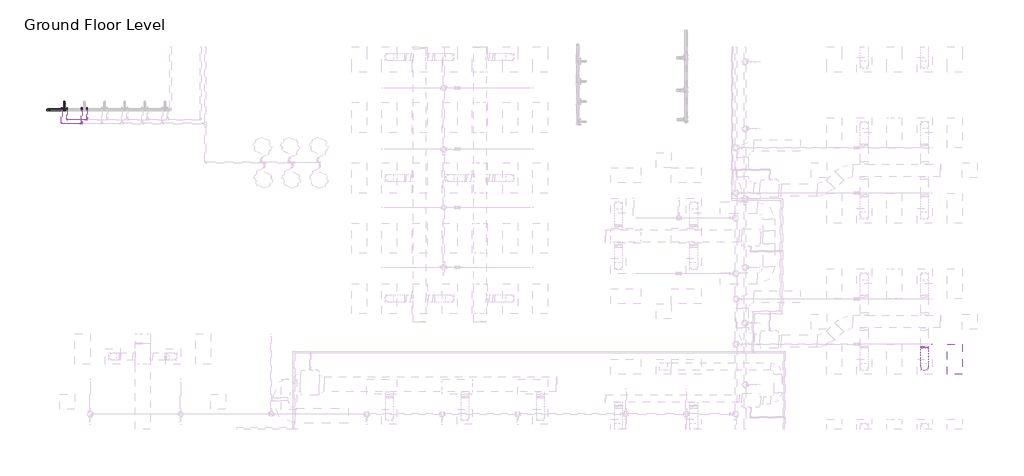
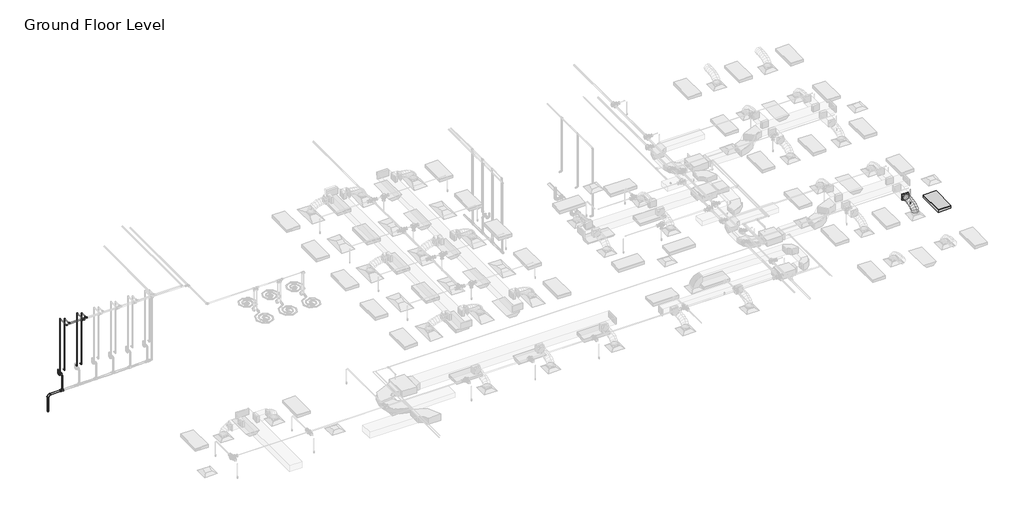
# One storey, part 39 of 74: 22 pipe fittings, 22 pipe segments, 1 duct fitting, 1 duct segment, 1 fire suppression terminal, 1 light fixture.
"""IFC4 building model written with IfcOpenShell, lengths in millimetres."""

from ifc_helpers import new_model, si_unit, point, frame, frame_2d, origin, place, context, project, spatial, circle_curve, ellipse_curve, trimmed, segment, composite_curve, outline, extrude, transform, mapped, element, save
from ifc_brep_helpers import plane_surface, cylinder_surface, advanced_brep
from components import m_rectangular_to_round_transition_angle_45_degree_641efff0, m_sprinkler_dry_pendent_hosted_15_mm_dry_pendent_9bda8e11, m_troffer_light_parabolic_rectangular1_0600x1200mm_4_lamp_86473d4a, m_bend_pvc_sch_40_dwv_standard_0eeb11e1, m_bend_pvc_sch_40_dwv_standard_1e7bdcc1, m_bend_pvc_sch_40_dwv_standard_776e50c4, m_bend_pvc_sch_40_dwv_standard_a69ec96e, m_tee_reducing_sanitary_pvc_sch_40_dwv_standard_21d2848c, standard_b266ab3f, standard_72b35c3b, standard_e954f56a, standard_c7dcb452

model = new_model("IFC4")

# Units and contexts
model_context = context("Model", 3, world=origin())
ifc_project = project(units=[si_unit("LENGTHUNIT", "METRE", prefix="MILLI")], contexts=[model_context])

# Site, building, storey
site = spatial("IfcSite", under=ifc_project)
building = spatial("IfcBuilding", under=site)
storey = spatial("IfcBuildingStorey", under=building, Name="Ground Floor Level", Elevation=900.0)

# Duct fitting
placement = place(None, origin())
m_rectangular_to_round_transition_angle_45_degree_shape = m_rectangular_to_round_transition_angle_45_degree_641efff0(model_context)
element("IfcDuctFitting", 1, ObjectType="M_Rectangular to Round Transition - Angle : 45 Degree", at=placement, inside=storey, context=model_context, shape_type="MappedRepresentation", body=[
    mapped(m_rectangular_to_round_transition_angle_45_degree_shape, transform((13142.7672395, -247.4487153, 4100.0), x_axis=(0.0, -1.0, 0.0), y_axis=(1.0, 0.0, 0.0), z_axis=(0.0, 0.0, 1.0))),
])

# Duct segment
element("IfcDuctSegment", 2, ObjectType="Flex - Round", at=placement, inside=storey, context=model_context, shape_type="AdvancedBrep", body=[
    advanced_brep(
    [(13292.7672395, -1074.7846466, 3826.6), (13142.7672395, -1224.7846466, 3826.6), (12992.7672395, -1074.7846466, 3826.6), (13142.7672395, -924.7846466, 3826.6), (13292.7672395, -1074.7846466, 3857.9377114), (13142.7672395, -1224.7846466, 3883.5809337), (12992.7672395, -1074.7846466, 3857.9377114), (13142.7672395, -924.7846466, 3832.2944892), (13292.7672395, -1057.7687141, 3906.2505728), (13142.7672395, -1191.506693, 3978.0660967), (12992.7672395, -1057.7687141, 3906.2505728), (13142.7672395, -924.0307351, 3834.435049), (13292.7672395, -1010.5848337, 3968.7113131), (13142.7672395, -1114.790733, 4079.6206026), (12992.7672395, -1010.5848337, 3968.7113131), (13142.7672395, -906.3789345, 3857.8020236), (13292.7672395, -939.0288816, 4016.0700639), (13142.7672395, -1007.9629372, 4150.3237489), (12992.7672395, -939.0288816, 4016.0700639), (13142.7672395, -870.0948259, 3881.8163788), (13292.7672395, -848.8967336, 4050.4146682), (13142.7672395, -892.4574967, 4194.3367758), (12992.7672395, -848.8967336, 4050.4146682), (13142.7672395, -805.3359704, 3906.4925606), (13292.7672395, -745.9842657, 4073.8329691), (13142.7672395, -772.5451897, 4221.6234841), (12992.7672395, -745.9842657, 4073.8329691), (13142.7672395, -719.4233417, 3926.0424542), (13292.7672395, -636.087354, 4088.4128097), (13142.7672395, -651.2382563, 4237.7170733), (12992.7672395, -636.087354, 4088.4128097), (13142.7672395, -620.9364516, 3939.1085462), (13292.7672395, -525.0018744, 4096.242033), (13142.7672395, -532.5072025, 4246.085151), (12992.7672395, -525.0018744, 4096.242033), (13142.7672395, -517.4965462, 3946.398915), (13292.7672395, -418.5237028, 4099.4084821), (13142.7672395, -421.2151959, 4249.394754), (12992.7672395, -418.5237028, 4099.4084821), (13142.7672395, -415.8322097, 3949.4222102), (13292.7672395, -322.4487153, 4100.0), (13142.7672395, -321.5252075, 3950.0028429), (12992.7672395, -322.4487153, 4100.0), (13142.7672395, -323.3722232, 4249.9971571)],
    [
        (0, 1, circle_curve(frame((13142.7672395, -1074.7846466, 3826.6), z_axis=(0.0, 0.0, -1.0), x_axis=(1.0, 0.0, 0.0)), 150.0)),
        (1, 2, circle_curve(frame((13142.7672395, -1074.7846466, 3826.6), z_axis=(0.0, 0.0, -1.0), x_axis=(1.0, 0.0, 0.0)), 150.0)),
        (2, 3, circle_curve(frame((13142.7672395, -1074.7846466, 3826.6), z_axis=(0.0, 0.0, -1.0), x_axis=(1.0, 0.0, 0.0)), 150.0)),
        (3, 0, circle_curve(frame((13142.7672395, -1074.7846466, 3826.6), z_axis=(0.0, 0.0, -1.0), x_axis=(1.0, 0.0, 0.0)), 150.0)),
        (0, 4),
        (4, 5, ellipse_curve(frame((13142.7672395, -1074.7846466, 3857.9377114), z_axis=(0.0, -0.16851014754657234, -0.9856999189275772), x_axis=(0.0, 0.9856999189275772, -0.1685101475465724)), 152.176131, 150.0)),
        (5, 1),
        (5, 6, ellipse_curve(frame((13142.7672395, -1074.7846466, 3857.9377114), z_axis=(0.0, -0.16851014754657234, -0.9856999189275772), x_axis=(0.0, 0.9856999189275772, -0.1685101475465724)), 152.176131, 150.0)),
        (6, 2),
        (6, 7, ellipse_curve(frame((13142.7672395, -1074.7846466, 3857.9377114), z_axis=(0.0, -0.16851014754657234, -0.9856999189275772), x_axis=(0.0, 0.9856999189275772, -0.1685101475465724)), 152.176131, 150.0)),
        (7, 3),
        (7, 4, ellipse_curve(frame((13142.7672395, -1074.7846466, 3857.9377114), z_axis=(0.0, -0.16851014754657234, -0.9856999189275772), x_axis=(0.0, 0.9856999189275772, -0.1685101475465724)), 152.176131, 150.0)),
        (4, 8),
        (8, 9, ellipse_curve(frame((13142.7672395, -1057.7687141, 3906.2505728), z_axis=(0.0, -0.4730922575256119, -0.8810128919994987), x_axis=(0.0, 0.8810128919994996, -0.47309225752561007)), 151.8002519, 150.0)),
        (9, 5),
        (9, 10, ellipse_curve(frame((13142.7672395, -1057.7687141, 3906.2505728), z_axis=(0.0, -0.4730922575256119, -0.8810128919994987), x_axis=(0.0, 0.8810128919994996, -0.47309225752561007)), 151.8002519, 150.0)),
        (10, 6),
        (10, 11, ellipse_curve(frame((13142.7672395, -1057.7687141, 3906.2505728), z_axis=(0.0, -0.4730922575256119, -0.8810128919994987), x_axis=(0.0, 0.8810128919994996, -0.47309225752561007)), 151.8002519, 150.0)),
        (11, 7),
        (11, 8, ellipse_curve(frame((13142.7672395, -1057.7687141, 3906.2505728), z_axis=(0.0, -0.4730922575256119, -0.8810128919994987), x_axis=(0.0, 0.8810128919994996, -0.47309225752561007)), 151.8002519, 150.0)),
        (8, 12),
        (12, 13, ellipse_curve(frame((13142.7672395, -1010.5848337, 3968.7113131), z_axis=(0.0, -0.7287877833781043, -0.6847396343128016), x_axis=(0.0, 0.684739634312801, -0.7287877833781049)), 152.1832446, 150.0)),
        (13, 9),
        (13, 14, ellipse_curve(frame((13142.7672395, -1010.5848337, 3968.7113131), z_axis=(0.0, -0.7287877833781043, -0.6847396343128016), x_axis=(0.0, 0.684739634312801, -0.7287877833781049)), 152.1832446, 150.0)),
        (14, 10),
        (14, 15, ellipse_curve(frame((13142.7672395, -1010.5848337, 3968.7113131), z_axis=(0.0, -0.7287877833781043, -0.6847396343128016), x_axis=(0.0, 0.684739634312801, -0.7287877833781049)), 152.1832446, 150.0)),
        (15, 11),
        (15, 12, ellipse_curve(frame((13142.7672395, -1010.5848337, 3968.7113131), z_axis=(0.0, -0.7287877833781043, -0.6847396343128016), x_axis=(0.0, 0.684739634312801, -0.7287877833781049)), 152.1832446, 150.0)),
        (12, 16),
        (16, 17, ellipse_curve(frame((13142.7672395, -939.0288816, 4016.0700639), z_axis=(0.0, -0.8895859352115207, -0.4567678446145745), x_axis=(0.0, 0.45676784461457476, -0.8895859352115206)), 150.91705, 150.0)),
        (17, 13),
        (17, 18, ellipse_curve(frame((13142.7672395, -939.0288816, 4016.0700639), z_axis=(0.0, -0.8895859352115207, -0.4567678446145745), x_axis=(0.0, 0.45676784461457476, -0.8895859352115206)), 150.91705, 150.0)),
        (18, 14),
        (18, 19, ellipse_curve(frame((13142.7672395, -939.0288816, 4016.0700639), z_axis=(0.0, -0.8895859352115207, -0.4567678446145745), x_axis=(0.0, 0.45676784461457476, -0.8895859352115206)), 150.91705, 150.0)),
        (19, 15),
        (19, 16, ellipse_curve(frame((13142.7672395, -939.0288816, 4016.0700639), z_axis=(0.0, -0.8895859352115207, -0.4567678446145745), x_axis=(0.0, 0.45676784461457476, -0.8895859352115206)), 150.91705, 150.0)),
        (16, 20),
        (20, 21, ellipse_curve(frame((13142.7672395, -848.8967336, 4050.4146682), z_axis=(0.0, -0.9571203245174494, -0.2896906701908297), x_axis=(0.0, 0.2896906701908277, -0.9571203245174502)), 150.369921, 150.0)),
        (21, 17),
        (21, 22, ellipse_curve(frame((13142.7672395, -848.8967336, 4050.4146682), z_axis=(0.0, -0.9571203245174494, -0.2896906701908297), x_axis=(0.0, 0.2896906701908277, -0.9571203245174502)), 150.369921, 150.0)),
        (22, 18),
        (22, 23, ellipse_curve(frame((13142.7672395, -848.8967336, 4050.4146682), z_axis=(0.0, -0.9571203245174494, -0.2896906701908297), x_axis=(0.0, 0.2896906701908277, -0.9571203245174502)), 150.369921, 150.0)),
        (23, 19),
        (23, 20, ellipse_curve(frame((13142.7672395, -848.8967336, 4050.4146682), z_axis=(0.0, -0.9571203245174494, -0.2896906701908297), x_axis=(0.0, 0.2896906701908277, -0.9571203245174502)), 150.369921, 150.0)),
        (20, 24),
        (24, 25, ellipse_curve(frame((13142.7672395, -745.9842657, 4073.8329691), z_axis=(0.0, -0.9842313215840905, -0.1768861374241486), x_axis=(0.0, 0.17688613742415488, -0.9842313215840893)), 150.1583131, 150.0)),
        (25, 21),
        (25, 26, ellipse_curve(frame((13142.7672395, -745.9842657, 4073.8329691), z_axis=(0.0, -0.9842313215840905, -0.1768861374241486), x_axis=(0.0, 0.17688613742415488, -0.9842313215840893)), 150.1583131, 150.0)),
        (26, 22),
        (26, 27, ellipse_curve(frame((13142.7672395, -745.9842657, 4073.8329691), z_axis=(0.0, -0.9842313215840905, -0.1768861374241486), x_axis=(0.0, 0.17688613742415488, -0.9842313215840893)), 150.1583131, 150.0)),
        (27, 23),
        (27, 24, ellipse_curve(frame((13142.7672395, -745.9842657, 4073.8329691), z_axis=(0.0, -0.9842313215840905, -0.1768861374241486), x_axis=(0.0, 0.17688613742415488, -0.9842313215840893)), 150.1583131, 150.0)),
        (24, 28),
        (28, 29, ellipse_curve(frame((13142.7672395, -636.087354, 4088.4128097), z_axis=(0.0, -0.9948906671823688, -0.1009582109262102), x_axis=(0.0, 0.10095821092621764, -0.994890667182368)), 150.0710264, 150.0)),
        (29, 25),
        (29, 30, ellipse_curve(frame((13142.7672395, -636.087354, 4088.4128097), z_axis=(0.0, -0.9948906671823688, -0.1009582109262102), x_axis=(0.0, 0.10095821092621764, -0.994890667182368)), 150.0710264, 150.0)),
        (30, 26),
        (30, 31, ellipse_curve(frame((13142.7672395, -636.087354, 4088.4128097), z_axis=(0.0, -0.9948906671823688, -0.1009582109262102), x_axis=(0.0, 0.10095821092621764, -0.994890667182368)), 150.0710264, 150.0)),
        (31, 27),
        (31, 28, ellipse_curve(frame((13142.7672395, -636.087354, 4088.4128097), z_axis=(0.0, -0.9948906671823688, -0.1009582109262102), x_axis=(0.0, 0.10095821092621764, -0.994890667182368)), 150.0710264, 150.0)),
        (28, 32),
        (32, 33, ellipse_curve(frame((13142.7672395, -525.0018744, 4096.242033), z_axis=(0.0, -0.9987479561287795, -0.05002519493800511), x_axis=(0.0, 0.050025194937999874, -0.9987479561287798)), 150.0309634, 150.0)),
        (33, 29),
        (33, 34, ellipse_curve(frame((13142.7672395, -525.0018744, 4096.242033), z_axis=(0.0, -0.9987479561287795, -0.05002519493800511), x_axis=(0.0, 0.050025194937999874, -0.9987479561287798)), 150.0309634, 150.0)),
        (34, 30),
        (34, 35, ellipse_curve(frame((13142.7672395, -525.0018744, 4096.242033), z_axis=(0.0, -0.9987479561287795, -0.05002519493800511), x_axis=(0.0, 0.050025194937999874, -0.9987479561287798)), 150.0309634, 150.0)),
        (35, 31),
        (35, 32, ellipse_curve(frame((13142.7672395, -525.0018744, 4096.242033), z_axis=(0.0, -0.9987479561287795, -0.05002519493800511), x_axis=(0.0, 0.050025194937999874, -0.9987479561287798)), 150.0309634, 150.0)),
        (32, 36),
        (36, 37, ellipse_curve(frame((13142.7672395, -418.5237028, 4099.4084821), z_axis=(0.0, -0.9998390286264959, -0.017942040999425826), x_axis=(0.0, 0.017942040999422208, -0.999839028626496)), 150.0104193, 150.0)),
        (37, 33),
        (37, 38, ellipse_curve(frame((13142.7672395, -418.5237028, 4099.4084821), z_axis=(0.0, -0.9998390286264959, -0.017942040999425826), x_axis=(0.0, 0.017942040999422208, -0.999839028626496)), 150.0104193, 150.0)),
        (38, 34),
        (38, 39, ellipse_curve(frame((13142.7672395, -418.5237028, 4099.4084821), z_axis=(0.0, -0.9998390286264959, -0.017942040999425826), x_axis=(0.0, 0.017942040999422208, -0.999839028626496)), 150.0104193, 150.0)),
        (39, 35),
        (39, 36, ellipse_curve(frame((13142.7672395, -418.5237028, 4099.4084821), z_axis=(0.0, -0.9998390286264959, -0.017942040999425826), x_axis=(0.0, 0.017942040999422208, -0.999839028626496)), 150.0104193, 150.0)),
        (40, 41, circle_curve(frame((13142.7672395, -322.4487153, 4100.0), z_axis=(0.0, 0.9999810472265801, 0.006156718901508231), x_axis=(1.0, 0.0, 0.0)), 150.0)),
        (41, 42, circle_curve(frame((13142.7672395, -322.4487153, 4100.0), z_axis=(0.0, 0.9999810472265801, 0.006156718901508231), x_axis=(1.0, 0.0, 0.0)), 150.0)),
        (42, 43, circle_curve(frame((13142.7672395, -322.4487153, 4100.0), z_axis=(0.0, 0.9999810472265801, 0.006156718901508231), x_axis=(1.0, 0.0, 0.0)), 150.0)),
        (43, 40, circle_curve(frame((13142.7672395, -322.4487153, 4100.0), z_axis=(0.0, 0.9999810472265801, 0.006156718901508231), x_axis=(1.0, 0.0, 0.0)), 150.0)),
        (36, 40),
        (43, 37),
        (42, 38),
        (41, 39),
    ],
    [
        plane_surface(frame((13142.7672395, -1224.7846466, 3826.6), z_axis=(0.0, 0.0, -1.0), x_axis=(1.0, 0.0, 0.0))),
        cylinder_surface(frame((13142.7672395, -1074.7846466, 3826.6), z_axis=(0.0, 0.0, -1.0), x_axis=(1.0, 0.0, 0.0)), 150.0),
        cylinder_surface(frame((13142.7672395, -1074.7846466, 3857.9377114), z_axis=(0.0, -0.3322008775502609, -0.9432086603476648), x_axis=(1.0, 0.0, 0.0)), 150.0),
        cylinder_surface(frame((13142.7672395, -1057.7687141, 3906.2505728), z_axis=(0.0, -0.6027625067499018, -0.7979206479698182), x_axis=(1.0, 0.0, 0.0)), 150.0),
        cylinder_surface(frame((13142.7672395, -1010.5848337, 3968.7113131), z_axis=(0.0, -0.8339024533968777, -0.5519118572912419), x_axis=(1.0, 0.0, 0.0)), 150.0),
        cylinder_surface(frame((13142.7672395, -939.0288816, 4016.0700639), z_axis=(0.0, -0.9344582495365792, -0.3560727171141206), x_axis=(1.0, 0.0, 0.0)), 150.0),
        cylinder_surface(frame((13142.7672395, -848.8967336, 4050.4146682), z_axis=(0.0, -0.9750732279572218, -0.22188330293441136), x_axis=(1.0, 0.0, 0.0)), 150.0),
        cylinder_surface(frame((13142.7672395, -745.9842657, 4073.8329691), z_axis=(0.0, -0.9913140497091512, -0.1315159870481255), x_axis=(1.0, 0.0, 0.0)), 150.0),
        cylinder_surface(frame((13142.7672395, -636.087354, 4088.4128097), z_axis=(0.0, -0.9975255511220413, -0.07030487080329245), x_axis=(1.0, 0.0, 0.0)), 150.0),
        cylinder_surface(frame((13142.7672395, -525.0018744, 4096.242033), z_axis=(0.0, -0.9995581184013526, -0.029724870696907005), x_axis=(1.0, 0.0, 0.0)), 150.0),
        plane_surface(frame((13142.7672395, -323.3722232, 4249.9971571), z_axis=(0.0, 0.9999810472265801, 0.006156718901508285), x_axis=(1.0, 0.0, 0.0))),
        cylinder_surface(frame((13142.7672395, -418.5237028, 4099.4084821), z_axis=(0.0, -0.9999810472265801, -0.006156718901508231), x_axis=(1.0, 0.0, 0.0)), 150.0),
    ],
    [
        (0, [[1, 2, 3, 4]]),
        (1, [[-1, 5, 6, 7]]),
        (1, [[-2, -7, 8, 9]]),
        (1, [[-3, -9, 10, 11]]),
        (1, [[-4, -11, 12, -5]]),
        (2, [[-6, 13, 14, 15]]),
        (2, [[-8, -15, 16, 17]]),
        (2, [[-10, -17, 18, 19]]),
        (2, [[-12, -19, 20, -13]]),
        (3, [[-14, 21, 22, 23]]),
        (3, [[-16, -23, 24, 25]]),
        (3, [[-18, -25, 26, 27]]),
        (3, [[-20, -27, 28, -21]]),
        (4, [[-22, 29, 30, 31]]),
        (4, [[-24, -31, 32, 33]]),
        (4, [[-26, -33, 34, 35]]),
        (4, [[-28, -35, 36, -29]]),
        (5, [[-30, 37, 38, 39]]),
        (5, [[-32, -39, 40, 41]]),
        (5, [[-34, -41, 42, 43]]),
        (5, [[-36, -43, 44, -37]]),
        (6, [[-38, 45, 46, 47]]),
        (6, [[-40, -47, 48, 49]]),
        (6, [[-42, -49, 50, 51]]),
        (6, [[-44, -51, 52, -45]]),
        (7, [[-46, 53, 54, 55]]),
        (7, [[-48, -55, 56, 57]]),
        (7, [[-50, -57, 58, 59]]),
        (7, [[-52, -59, 60, -53]]),
        (8, [[-54, 61, 62, 63]]),
        (8, [[-56, -63, 64, 65]]),
        (8, [[-58, -65, 66, 67]]),
        (8, [[-60, -67, 68, -61]]),
        (9, [[-62, 69, 70, 71]]),
        (9, [[-64, -71, 72, 73]]),
        (9, [[-66, -73, 74, 75]]),
        (9, [[-68, -75, 76, -69]]),
        (10, [[77, 78, 79, 80]]),
        (11, [[-70, 81, -80, 82]]),
        (11, [[-72, -82, -79, 83]]),
        (11, [[-74, -83, -78, 84]]),
        (11, [[-76, -84, -77, -81]]),
    ],
),
])

# Fire suppression terminal
m_sprinkler_dry_pendent_hosted_15_mm_dry_pendent_shape = m_sprinkler_dry_pendent_hosted_15_mm_dry_pendent_9bda8e11(model_context)
element("IfcFireSuppressionTerminal", 3, ObjectType="M_Sprinkler - Dry - Pendent - Hosted : 15 mm Dry Pendent", at=placement, inside=storey, context=model_context, shape_type="MappedRepresentation", body=[
    mapped(m_sprinkler_dry_pendent_hosted_15_mm_dry_pendent_shape, transform((13442.7672395, -174.7846466, 3650.0), x_axis=(1.0, 0.0, 0.0), y_axis=(0.0, -1.0, 0.0), z_axis=(0.0, 0.0, -1.0))),
])

# Light fixture
m_troffer_light_parabolic_rectangular1_0600x1200mm_4_lamp_shape = m_troffer_light_parabolic_rectangular1_0600x1200mm_4_lamp_86473d4a(model_context)
element("IfcLightFixture", 4, ObjectType="M_Troffer Light - Parabolic Rectangular1 : 0600x1200mm(4 Lamp) - 277V 2", at=placement, inside=storey, context=model_context, shape_type="MappedRepresentation", body=[
    mapped(m_troffer_light_parabolic_rectangular1_0600x1200mm_4_lamp_shape, transform((14283.3013074, -756.081145, 3650.0), x_axis=(0.0, 1.0, 0.0), y_axis=(-1.0, 0.0, 0.0), z_axis=(0.0, 0.0, 1.0))),
])

# Pipe fittings
m_bend_pvc_sch_40_dwv_standard_shape = m_bend_pvc_sch_40_dwv_standard_0eeb11e1(model_context)
element("IfcPipeFitting", 5, ObjectType="M_Bend - PVC - Sch 40 - DWV : Standard", at=placement, inside=storey, context=model_context, shape_type="MappedRepresentation", body=[
    mapped(m_bend_pvc_sch_40_dwv_standard_shape, transform((-21725.2711391, 9143.7835646, 712.5143809), x_axis=(-0.9999500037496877, 0.0, -0.009999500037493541), y_axis=(0.009999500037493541, 0.0, -0.9999500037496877), z_axis=(0.0, -1.0, 0.0))),
])
m_bend_pvc_sch_40_dwv_standard_2_shape = m_bend_pvc_sch_40_dwv_standard_1e7bdcc1(model_context)
element("IfcPipeFitting", 6, ObjectType="M_Bend - PVC - Sch 40 - DWV : Standard", at=placement, inside=storey, context=model_context, shape_type="MappedRepresentation", body=[
    mapped(m_bend_pvc_sch_40_dwv_standard_2_shape, transform((-21061.7062458, 9143.7835645, 1498.2000033), x_axis=(0.0, -0.9999500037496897, -0.00999950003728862), y_axis=(0.0, 0.00999950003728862, -0.9999500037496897), z_axis=(1.0, 0.0, 0.0))),
])
m_bend_pvc_sch_40_dwv_standard_3_shape = m_bend_pvc_sch_40_dwv_standard_776e50c4(model_context)
element("IfcPipeFitting", 7, ObjectType="M_Bend - PVC - Sch 40 - DWV : Standard", at=placement, inside=storey, context=model_context, shape_type="MappedRepresentation", body=[
    mapped(m_bend_pvc_sch_40_dwv_standard_3_shape, transform((-21061.7062458, 9323.7832388, 1358.6825726), x_axis=(0.0, -0.9999500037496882, -0.009999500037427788), y_axis=(0.0, -0.009999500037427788, 0.9999500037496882), z_axis=(-1.0, 0.0, 0.0))),
])
element("IfcPipeFitting", 8, ObjectType="M_Bend - PVC - Sch 40 - DWV : Standard", at=placement, inside=storey, context=model_context, shape_type="MappedRepresentation", body=[
    mapped(m_bend_pvc_sch_40_dwv_standard_3_shape, transform((-21061.7062458, 9323.7832388, 1500.0), x_axis=(0.0, 0.0, 1.0), y_axis=(0.0, -1.0, 0.0), z_axis=(1.0, 0.0, 0.0))),
])
m_bend_pvc_sch_40_dwv_standard_4_shape = m_bend_pvc_sch_40_dwv_standard_a69ec96e(model_context)
element("IfcPipeFitting", 9, ObjectType="M_Bend - PVC - Sch 40 - DWV : Standard", at=placement, inside=storey, context=model_context, shape_type="MappedRepresentation", body=[
    mapped(m_bend_pvc_sch_40_dwv_standard_4_shape, transform((-21061.7062458, 9458.7835646, 1360.0325758), x_axis=(0.0, 0.999950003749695, 0.009999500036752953), y_axis=(0.007367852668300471, -0.009999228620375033, 0.999922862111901), z_axis=(0.999972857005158, 7.36748430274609e-05, -0.007367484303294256))),
])
m_tee_reducing_sanitary_pvc_sch_40_dwv_standard_shape = m_tee_reducing_sanitary_pvc_sch_40_dwv_standard_21d2848c(model_context)
element("IfcPipeFitting", 10, ObjectType="M_Tee Reducing Sanitary - PVC - Sch 40 - DWV : Standard", at=placement, inside=storey, context=model_context, shape_type="MappedRepresentation", body=[
    mapped(m_tee_reducing_sanitary_pvc_sch_40_dwv_standard_shape, transform((-21061.7062458, 9143.7835645, 719.2500298), x_axis=(0.9999500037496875, 0.0, 0.009999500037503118), y_axis=(0.009999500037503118, 0.0, -0.9999500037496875), z_axis=(0.0, 1.0, 0.0))),
])
standard_shape = standard_b266ab3f(model_context)
element("IfcPipeFitting", 11, ObjectType="M_Elbow - CPVC - Sch 40 : Standard", at=placement, inside=storey, context=model_context, shape_type="MappedRepresentation", body=[
    mapped(standard_shape, transform((-21165.5651206, 9135.2153534, 1690.0), x_axis=(0.0, -1.0, 0.0), y_axis=(0.0, 0.0, 1.0), z_axis=(-1.0, 0.0, 0.0))),
])
element("IfcPipeFitting", 12, ObjectType="M_Elbow - CPVC - Sch 40 : Standard", at=placement, inside=storey, context=model_context, shape_type="MappedRepresentation", body=[
    mapped(standard_shape, transform((-21165.5651206, 9135.2153534, 4315.0), x_axis=(0.0, 0.0, 1.0), y_axis=(0.0, -1.0, 0.0), z_axis=(1.0, 0.0, 0.0))),
])
element("IfcPipeFitting", 13, ObjectType="M_Elbow - CPVC - Sch 40 : Standard", at=placement, inside=storey, context=model_context, shape_type="MappedRepresentation", body=[
    mapped(standard_shape, transform((-20956.9352794, 9135.2153534, 1690.0), x_axis=(0.0, -1.0, 0.0), y_axis=(0.0, 0.0, 1.0), z_axis=(-1.0, 0.0, 0.0))),
])
element("IfcPipeFitting", 14, ObjectType="M_Elbow - CPVC - Sch 40 : Standard", at=placement, inside=storey, context=model_context, shape_type="MappedRepresentation", body=[
    mapped(standard_shape, transform((-20956.9352794, 9135.2153534, 4250.0), x_axis=(0.0, 0.0, 1.0), y_axis=(0.0, -1.0, 0.0), z_axis=(1.0, 0.0, 0.0))),
])
element("IfcPipeFitting", 15, ObjectType="M_Elbow - CPVC - Sch 40 : Standard", at=placement, inside=storey, context=model_context, shape_type="MappedRepresentation", body=[
    mapped(standard_shape, transform((-20156.9352794, 9135.2153534, 4250.0), x_axis=(0.0, 0.0, 1.0), y_axis=(0.0, -1.0, 0.0), z_axis=(1.0, 0.0, 0.0))),
])
element("IfcPipeFitting", 16, ObjectType="M_Elbow - CPVC - Sch 40 : Standard", at=placement, inside=storey, context=model_context, shape_type="MappedRepresentation", body=[
    mapped(standard_shape, transform((-20365.5651206, 9135.2153534, 1690.0), x_axis=(0.0, 0.0, -1.0), y_axis=(0.0, 1.0, 0.0), z_axis=(1.0, 0.0, 0.0))),
])
element("IfcPipeFitting", 17, ObjectType="M_Elbow - CPVC - Sch 40 : Standard", at=placement, inside=storey, context=model_context, shape_type="MappedRepresentation", body=[
    mapped(standard_shape, transform((-20156.9352794, 9135.2153534, 1690.0), x_axis=(0.0, 0.0, -1.0), y_axis=(0.0, 1.0, 0.0), z_axis=(1.0, 0.0, 0.0))),
])
element("IfcPipeFitting", 18, ObjectType="M_Elbow - CPVC - Sch 40 : Standard", at=placement, inside=storey, context=model_context, shape_type="MappedRepresentation", body=[
    mapped(standard_shape, transform((-20365.5651206, 9135.2153534, 4315.0), x_axis=(0.0, 0.0, 1.0), y_axis=(0.0, -1.0, 0.0), z_axis=(1.0, 0.0, 0.0))),
])
element("IfcPipeFitting", 19, ObjectType="M_Elbow - CPVC - Sch 40 : Standard", at=placement, inside=storey, context=model_context, shape_type="MappedRepresentation", body=[
    mapped(standard_shape, transform((-21165.5651206, 8599.9071734, 4315.0), x_axis=(0.0, -1.0, 0.0), y_axis=(1.0, 0.0, 0.0), z_axis=(0.0, 0.0, 1.0))),
])
element("IfcPipeFitting", 20, ObjectType="M_Elbow - CPVC - Sch 40 : Standard", at=placement, inside=storey, context=model_context, shape_type="MappedRepresentation", body=[
    mapped(standard_shape, transform((-20956.9352794, 8755.2153534, 4250.0), x_axis=(0.0, -1.0, 0.0), y_axis=(1.0, 0.0, 0.0), z_axis=(0.0, 0.0, 1.0))),
])
standard_2_shape = standard_72b35c3b(model_context)
element("IfcPipeFitting", 21, ObjectType="M_Tee - CPVC - Sch 40 : Standard", at=placement, inside=storey, context=model_context, shape_type="MappedRepresentation", body=[
    mapped(standard_2_shape, transform((-20365.5651206, 8599.9071734, 4315.0), x_axis=(1.0, 0.0, 0.0), y_axis=(0.0, -1.0, 0.0), z_axis=(0.0, 0.0, -1.0))),
])
element("IfcPipeFitting", 22, ObjectType="M_Tee - CPVC - Sch 40 : Standard", at=placement, inside=storey, context=model_context, shape_type="MappedRepresentation", body=[
    mapped(standard_2_shape, transform((-20156.9352794, 8755.2153534, 4250.0), x_axis=(-1.0, 0.0, 0.0), y_axis=(0.0, -1.0, 0.0), z_axis=(0.0, 0.0, 1.0))),
])
standard_3_shape = standard_e954f56a(model_context)
element("IfcPipeFitting", 23, ObjectType="M_Coupling Reducing - CPVC - Sch 40 : Standard", at=placement, inside=storey, context=model_context, shape_type="MappedRepresentation", body=[
    mapped(standard_3_shape, transform((-20365.5651206, 8639.6073734, 4315.0), x_axis=(0.0, 1.0, 0.0), y_axis=(-1.0, 0.0, 0.0), z_axis=(0.0, 0.0, 1.0))),
])
element("IfcPipeFitting", 24, ObjectType="M_Coupling Reducing - CPVC - Sch 40 : Standard", at=placement, inside=storey, context=model_context, shape_type="MappedRepresentation", body=[
    mapped(standard_3_shape, transform((-20196.6354794, 8755.2153534, 4250.0), x_axis=(-1.0, 0.0, 0.0), y_axis=(0.0, -1.0, 0.0), z_axis=(0.0, 0.0, 1.0))),
])
element("IfcPipeFitting", 25, ObjectType="M_Coupling Reducing - CPVC - Sch 40 : Standard", at=placement, inside=storey, context=model_context, shape_type="MappedRepresentation", body=[
    mapped(standard_3_shape, transform((-20156.9352794, 8794.9155534, 4250.0), x_axis=(0.0, 1.0, 0.0), y_axis=(-1.0, 0.0, 0.0), z_axis=(0.0, 0.0, 1.0))),
])
standard_4_shape = standard_c7dcb452(model_context)
element("IfcPipeFitting", 26, ObjectType="M_Coupling Reducing - CPVC - Sch 40 : Standard", at=placement, inside=storey, context=model_context, shape_type="MappedRepresentation", body=[
    mapped(standard_4_shape, transform((-20462.4153206, 8599.9071734, 4315.0), x_axis=(1.0, 0.0, 0.0), y_axis=(0.0, 1.0, 0.0), z_axis=(0.0, 0.0, 1.0))),
])

# Pipe segments
element("IfcPipeSegment", 27, ObjectType="CPVC", at=placement, inside=storey, context=model_context, shape_type="SweptSolid", body=[
    extrude(outline(composite_curve([segment(trimmed(circle_curve(frame_2d((1690.0, -21165.5651206)), 13.335), [point((1690.0, -21178.9001206))], [point((1676.665, -21165.5651206))], False, "CARTESIAN"), True, "CONTINUOUS"), segment(trimmed(circle_curve(frame_2d((1690.0, -21165.5651206)), 13.335), [point((1676.665, -21165.5651206))], [point((1690.0, -21152.2301206))], False, "CARTESIAN"), True, "CONTINUOUS"), segment(trimmed(circle_curve(frame_2d((1690.0, -21165.5651206)), 13.335), [point((1690.0, -21152.2301206))], [point((1703.335, -21165.5651206))], False, "CARTESIAN"), True, "CONTINUOUS"), segment(trimmed(circle_curve(frame_2d((1690.0, -21165.5651206)), 13.335), [point((1703.335, -21165.5651206))], [point((1690.0, -21178.9001206))], False, "CARTESIAN"), True, "CONTINUOUS")], self_intersect=False)), frame((0.0, 9170.5404034, 0.0), z_axis=(0.0, 1.0, 0.0), x_axis=(0.0, 0.0, 1.0)), (0.0, 0.0, 1.0), 64.67495),
])
element("IfcPipeSegment", 28, ObjectType="CPVC", at=placement, inside=storey, context=model_context, shape_type="SweptSolid", body=[
    extrude(outline(composite_curve([segment(trimmed(circle_curve(frame_2d((4315.0, -21165.5651206)), 13.335), [point((4315.0, -21178.9001206))], [point((4301.665, -21165.5651206))], False, "CARTESIAN"), True, "CONTINUOUS"), segment(trimmed(circle_curve(frame_2d((4315.0, -21165.5651206)), 13.335), [point((4301.665, -21165.5651206))], [point((4315.0, -21152.2301206))], False, "CARTESIAN"), True, "CONTINUOUS"), segment(trimmed(circle_curve(frame_2d((4315.0, -21165.5651206)), 13.335), [point((4315.0, -21152.2301206))], [point((4328.335, -21165.5651206))], False, "CARTESIAN"), True, "CONTINUOUS"), segment(trimmed(circle_curve(frame_2d((4315.0, -21165.5651206)), 13.335), [point((4328.335, -21165.5651206))], [point((4315.0, -21178.9001206))], False, "CARTESIAN"), True, "CONTINUOUS")], self_intersect=False)), frame((0.0, 8635.2322234, 0.0), z_axis=(0.0, 1.0, 0.0), x_axis=(0.0, 0.0, 1.0)), (0.0, 0.0, 1.0), 464.65808),
])
element("IfcPipeSegment", 29, ObjectType="CPVC", at=placement, inside=storey, context=model_context, shape_type="SweptSolid", body=[
    extrude(outline(composite_curve([segment(trimmed(circle_curve(frame_2d((-21165.5651206, 9135.2153534)), 13.335), [point((-21178.9001206, 9135.2153534))], [point((-21165.5651206, 9148.5503534))], False, "CARTESIAN"), True, "CONTINUOUS"), segment(trimmed(circle_curve(frame_2d((-21165.5651206, 9135.2153534)), 13.335), [point((-21165.5651206, 9148.5503534))], [point((-21152.2301206, 9135.2153534))], False, "CARTESIAN"), True, "CONTINUOUS"), segment(trimmed(circle_curve(frame_2d((-21165.5651206, 9135.2153534)), 13.335), [point((-21152.2301206, 9135.2153534))], [point((-21165.5651206, 9121.8803534))], False, "CARTESIAN"), True, "CONTINUOUS"), segment(trimmed(circle_curve(frame_2d((-21165.5651206, 9135.2153534)), 13.335), [point((-21165.5651206, 9121.8803534))], [point((-21178.9001206, 9135.2153534))], False, "CARTESIAN"), True, "CONTINUOUS")], self_intersect=False)), frame((0.0, 0.0, 1725.32505), z_axis=(0.0, 0.0, 1.0), x_axis=(1.0, 0.0, 0.0)), (0.0, 0.0, 1.0), 2554.3499),
])
element("IfcPipeSegment", 30, ObjectType="CPVC", at=placement, inside=storey, context=model_context, shape_type="SweptSolid", body=[
    extrude(outline(composite_curve([segment(trimmed(circle_curve(frame_2d((1690.0, -20956.9352794)), 13.335), [point((1690.0, -20970.2702794))], [point((1676.665, -20956.9352794))], False, "CARTESIAN"), True, "CONTINUOUS"), segment(trimmed(circle_curve(frame_2d((1690.0, -20956.9352794)), 13.335), [point((1676.665, -20956.9352794))], [point((1690.0, -20943.6002794))], False, "CARTESIAN"), True, "CONTINUOUS"), segment(trimmed(circle_curve(frame_2d((1690.0, -20956.9352794)), 13.335), [point((1690.0, -20943.6002794))], [point((1703.335, -20956.9352794))], False, "CARTESIAN"), True, "CONTINUOUS"), segment(trimmed(circle_curve(frame_2d((1690.0, -20956.9352794)), 13.335), [point((1703.335, -20956.9352794))], [point((1690.0, -20970.2702794))], False, "CARTESIAN"), True, "CONTINUOUS")], self_intersect=False)), frame((0.0, 9170.5404034, 0.0), z_axis=(0.0, 1.0, 0.0), x_axis=(0.0, 0.0, 1.0)), (0.0, 0.0, 1.0), 64.67495),
])
element("IfcPipeSegment", 31, ObjectType="CPVC", at=placement, inside=storey, context=model_context, shape_type="SweptSolid", body=[
    extrude(outline(composite_curve([segment(trimmed(circle_curve(frame_2d((4250.0, -20956.9352794)), 13.335), [point((4250.0, -20970.2702794))], [point((4236.665, -20956.9352794))], False, "CARTESIAN"), True, "CONTINUOUS"), segment(trimmed(circle_curve(frame_2d((4250.0, -20956.9352794)), 13.335), [point((4236.665, -20956.9352794))], [point((4250.0, -20943.6002794))], False, "CARTESIAN"), True, "CONTINUOUS"), segment(trimmed(circle_curve(frame_2d((4250.0, -20956.9352794)), 13.335), [point((4250.0, -20943.6002794))], [point((4263.335, -20956.9352794))], False, "CARTESIAN"), True, "CONTINUOUS"), segment(trimmed(circle_curve(frame_2d((4250.0, -20956.9352794)), 13.335), [point((4263.335, -20956.9352794))], [point((4250.0, -20970.2702794))], False, "CARTESIAN"), True, "CONTINUOUS")], self_intersect=False)), frame((0.0, 8790.5404034, 0.0), z_axis=(0.0, 1.0, 0.0), x_axis=(0.0, 0.0, 1.0)), (0.0, 0.0, 1.0), 309.3499),
])
element("IfcPipeSegment", 32, ObjectType="CPVC", at=placement, inside=storey, context=model_context, shape_type="SweptSolid", body=[
    extrude(outline(composite_curve([segment(trimmed(circle_curve(frame_2d((-20956.9352794, 9135.2153534)), 13.335), [point((-20970.2702794, 9135.2153534))], [point((-20956.9352794, 9148.5503534))], False, "CARTESIAN"), True, "CONTINUOUS"), segment(trimmed(circle_curve(frame_2d((-20956.9352794, 9135.2153534)), 13.335), [point((-20956.9352794, 9148.5503534))], [point((-20943.6002794, 9135.2153534))], False, "CARTESIAN"), True, "CONTINUOUS"), segment(trimmed(circle_curve(frame_2d((-20956.9352794, 9135.2153534)), 13.335), [point((-20943.6002794, 9135.2153534))], [point((-20956.9352794, 9121.8803534))], False, "CARTESIAN"), True, "CONTINUOUS"), segment(trimmed(circle_curve(frame_2d((-20956.9352794, 9135.2153534)), 13.335), [point((-20956.9352794, 9121.8803534))], [point((-20970.2702794, 9135.2153534))], False, "CARTESIAN"), True, "CONTINUOUS")], self_intersect=False)), frame((0.0, 0.0, 1725.32505), z_axis=(0.0, 0.0, 1.0), x_axis=(1.0, 0.0, 0.0)), (0.0, 0.0, 1.0), 2489.3499),
])
element("IfcPipeSegment", 33, ObjectType="CPVC", at=placement, inside=storey, context=model_context, shape_type="SweptSolid", body=[
    extrude(outline(composite_curve([segment(trimmed(circle_curve(frame_2d((0.0, 13.335)), 13.335), [point((0.0, 26.67))], [point((13.335, 13.335))], False, "CARTESIAN"), True, "CONTINUOUS"), segment(trimmed(circle_curve(frame_2d((0.0, 13.335)), 13.335), [point((13.335, 13.335))], [point((0.0, 0.0))], False, "CARTESIAN"), True, "CONTINUOUS"), segment(trimmed(circle_curve(frame_2d((0.0, 13.335)), 13.335), [point((0.0, 0.0))], [point((-13.335, 13.335))], False, "CARTESIAN"), True, "CONTINUOUS"), segment(trimmed(circle_curve(frame_2d((0.0, 13.335)), 13.335), [point((-13.335, 13.335))], [point((0.0, 26.67))], False, "CARTESIAN"), True, "CONTINUOUS")], self_intersect=False)), frame((-20378.9001206, 9170.5404034, 1690.0), z_axis=(-6.212173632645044e-12, 1.0, 0.0), x_axis=(0.0, 0.0, 1.0)), (0.0, 0.0, 1.0), 64.67495),
])
element("IfcPipeSegment", 34, ObjectType="CPVC", at=placement, inside=storey, context=model_context, shape_type="SweptSolid", body=[
    extrude(outline(composite_curve([segment(trimmed(circle_curve(frame_2d((4315.0, -20365.5651206)), 13.335), [point((4315.0, -20378.9001206))], [point((4301.665, -20365.5651206))], False, "CARTESIAN"), True, "CONTINUOUS"), segment(trimmed(circle_curve(frame_2d((4315.0, -20365.5651206)), 13.335), [point((4301.665, -20365.5651206))], [point((4315.0, -20352.2301206))], False, "CARTESIAN"), True, "CONTINUOUS"), segment(trimmed(circle_curve(frame_2d((4315.0, -20365.5651206)), 13.335), [point((4315.0, -20352.2301206))], [point((4328.335, -20365.5651206))], False, "CARTESIAN"), True, "CONTINUOUS"), segment(trimmed(circle_curve(frame_2d((4315.0, -20365.5651206)), 13.335), [point((4328.335, -20365.5651206))], [point((4315.0, -20378.9001206))], False, "CARTESIAN"), True, "CONTINUOUS")], self_intersect=False)), frame((0.0, 8696.7573734, 0.0), z_axis=(0.0, 1.0, 0.0), x_axis=(0.0, 0.0, 1.0)), (0.0, 0.0, 1.0), 403.13293),
])
element("IfcPipeSegment", 35, ObjectType="CPVC", at=placement, inside=storey, context=model_context, shape_type="SweptSolid", body=[
    extrude(outline(composite_curve([segment(trimmed(circle_curve(frame_2d((-20365.5651206, 9135.2153534)), 13.335), [point((-20378.9001206, 9135.2153534))], [point((-20365.5651206, 9148.5503534))], False, "CARTESIAN"), True, "CONTINUOUS"), segment(trimmed(circle_curve(frame_2d((-20365.5651206, 9135.2153534)), 13.335), [point((-20365.5651206, 9148.5503534))], [point((-20352.2301206, 9135.2153534))], False, "CARTESIAN"), True, "CONTINUOUS"), segment(trimmed(circle_curve(frame_2d((-20365.5651206, 9135.2153534)), 13.335), [point((-20352.2301206, 9135.2153534))], [point((-20365.5651206, 9121.8803534))], False, "CARTESIAN"), True, "CONTINUOUS"), segment(trimmed(circle_curve(frame_2d((-20365.5651206, 9135.2153534)), 13.335), [point((-20365.5651206, 9121.8803534))], [point((-20378.9001206, 9135.2153534))], False, "CARTESIAN"), True, "CONTINUOUS")], self_intersect=False)), frame((0.0, 0.0, 1725.32505), z_axis=(0.0, 0.0, 1.0), x_axis=(1.0, 0.0, 0.0)), (0.0, 0.0, 1.0), 2554.3499),
])
element("IfcPipeSegment", 36, ObjectType="CPVC", at=placement, inside=storey, context=model_context, shape_type="SweptSolid", body=[
    extrude(outline(composite_curve([segment(trimmed(circle_curve(frame_2d((0.0, 13.335)), 13.335), [point((0.0, 26.67))], [point((13.335, 13.335))], False, "CARTESIAN"), True, "CONTINUOUS"), segment(trimmed(circle_curve(frame_2d((0.0, 13.335)), 13.335), [point((13.335, 13.335))], [point((0.0, 0.0))], False, "CARTESIAN"), True, "CONTINUOUS"), segment(trimmed(circle_curve(frame_2d((0.0, 13.335)), 13.335), [point((0.0, 0.0))], [point((-13.335, 13.335))], False, "CARTESIAN"), True, "CONTINUOUS"), segment(trimmed(circle_curve(frame_2d((0.0, 13.335)), 13.335), [point((-13.335, 13.335))], [point((0.0, 26.67))], False, "CARTESIAN"), True, "CONTINUOUS")], self_intersect=False)), frame((-20170.2702794, 9170.5404034, 1690.0), z_axis=(-6.212173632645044e-12, 1.0, 0.0), x_axis=(0.0, 0.0, 1.0)), (0.0, 0.0, 1.0), 64.67495),
])
element("IfcPipeSegment", 37, ObjectType="CPVC", at=placement, inside=storey, context=model_context, shape_type="SweptSolid", body=[
    extrude(outline(composite_curve([segment(trimmed(circle_curve(frame_2d((4250.0, -20156.9352794)), 13.335), [point((4250.0, -20170.2702794))], [point((4236.665, -20156.9352794))], False, "CARTESIAN"), True, "CONTINUOUS"), segment(trimmed(circle_curve(frame_2d((4250.0, -20156.9352794)), 13.335), [point((4236.665, -20156.9352794))], [point((4250.0, -20143.6002794))], False, "CARTESIAN"), True, "CONTINUOUS"), segment(trimmed(circle_curve(frame_2d((4250.0, -20156.9352794)), 13.335), [point((4250.0, -20143.6002794))], [point((4263.335, -20156.9352794))], False, "CARTESIAN"), True, "CONTINUOUS"), segment(trimmed(circle_curve(frame_2d((4250.0, -20156.9352794)), 13.335), [point((4263.335, -20156.9352794))], [point((4250.0, -20170.2702794))], False, "CARTESIAN"), True, "CONTINUOUS")], self_intersect=False)), frame((0.0, 8852.0655534, 0.0), z_axis=(0.0, 1.0, 0.0), x_axis=(0.0, 0.0, 1.0)), (0.0, 0.0, 1.0), 247.82475),
])
element("IfcPipeSegment", 38, ObjectType="CPVC", at=placement, inside=storey, context=model_context, shape_type="SweptSolid", body=[
    extrude(outline(composite_curve([segment(trimmed(circle_curve(frame_2d((-20156.9352794, 9135.2153534)), 13.335), [point((-20170.2702794, 9135.2153534))], [point((-20156.9352794, 9148.5503534))], False, "CARTESIAN"), True, "CONTINUOUS"), segment(trimmed(circle_curve(frame_2d((-20156.9352794, 9135.2153534)), 13.335), [point((-20156.9352794, 9148.5503534))], [point((-20143.6002794, 9135.2153534))], False, "CARTESIAN"), True, "CONTINUOUS"), segment(trimmed(circle_curve(frame_2d((-20156.9352794, 9135.2153534)), 13.335), [point((-20143.6002794, 9135.2153534))], [point((-20156.9352794, 9121.8803534))], False, "CARTESIAN"), True, "CONTINUOUS"), segment(trimmed(circle_curve(frame_2d((-20156.9352794, 9135.2153534)), 13.335), [point((-20156.9352794, 9121.8803534))], [point((-20170.2702794, 9135.2153534))], False, "CARTESIAN"), True, "CONTINUOUS")], self_intersect=False)), frame((0.0, 0.0, 1725.32505), z_axis=(0.0, 0.0, 1.0), x_axis=(1.0, 0.0, 0.0)), (0.0, 0.0, 1.0), 2489.3499),
])
element("IfcPipeSegment", 39, ObjectType="CPVC", at=placement, inside=storey, context=model_context, shape_type="SweptSolid", body=[
    extrude(outline(composite_curve([segment(trimmed(circle_curve(frame_2d((8599.9071734, 4315.0)), 13.335), [point((8586.5721734, 4315.0))], [point((8599.9071734, 4328.335))], False, "CARTESIAN"), True, "CONTINUOUS"), segment(trimmed(circle_curve(frame_2d((8599.9071734, 4315.0)), 13.335), [point((8599.9071734, 4328.335))], [point((8613.2421734, 4315.0))], False, "CARTESIAN"), True, "CONTINUOUS"), segment(trimmed(circle_curve(frame_2d((8599.9071734, 4315.0)), 13.335), [point((8613.2421734, 4315.0))], [point((8599.9071734, 4301.665))], False, "CARTESIAN"), True, "CONTINUOUS"), segment(trimmed(circle_curve(frame_2d((8599.9071734, 4315.0)), 13.335), [point((8599.9071734, 4301.665))], [point((8586.5721734, 4315.0))], False, "CARTESIAN"), True, "CONTINUOUS")], self_intersect=False)), frame((-21130.2400706, 0.0, 0.0), z_axis=(1.0, 0.0, 0.0), x_axis=(0.0, 1.0, 0.0)), (0.0, 0.0, 1.0), 667.82475),
])
element("IfcPipeSegment", 40, ObjectType="CPVC", at=placement, inside=storey, context=model_context, shape_type="SweptSolid", body=[
    extrude(outline(composite_curve([segment(trimmed(circle_curve(frame_2d((8755.2153534, 4250.0)), 13.335), [point((8741.8803534, 4250.0))], [point((8755.2153534, 4263.335))], False, "CARTESIAN"), True, "CONTINUOUS"), segment(trimmed(circle_curve(frame_2d((8755.2153534, 4250.0)), 13.335), [point((8755.2153534, 4263.335))], [point((8768.5503534, 4250.0))], False, "CARTESIAN"), True, "CONTINUOUS"), segment(trimmed(circle_curve(frame_2d((8755.2153534, 4250.0)), 13.335), [point((8768.5503534, 4250.0))], [point((8755.2153534, 4236.665))], False, "CARTESIAN"), True, "CONTINUOUS"), segment(trimmed(circle_curve(frame_2d((8755.2153534, 4250.0)), 13.335), [point((8755.2153534, 4236.665))], [point((8741.8803534, 4250.0))], False, "CARTESIAN"), True, "CONTINUOUS")], self_intersect=False)), frame((-20921.6102294, 0.0, 0.0), z_axis=(1.0, 0.0, 0.0), x_axis=(0.0, 1.0, 0.0)), (0.0, 0.0, 1.0), 667.82475),
])
element("IfcPipeSegment", 41, ObjectType="PVC - DWV", at=placement, inside=storey, context=model_context, shape_type="SweptSolid", body=[
    extrude(outline(composite_curve([segment(trimmed(circle_curve(frame_2d((0.0, -36.5125)), 36.5125), [point((-36.5125, -36.5125))], [point((0.0, 0.0))], False, "CARTESIAN"), True, "CONTINUOUS"), segment(trimmed(circle_curve(frame_2d((0.0, -36.5125)), 36.5125), [point((0.0, 0.0))], [point((36.5125, -36.5125))], False, "CARTESIAN"), True, "CONTINUOUS"), segment(trimmed(circle_curve(frame_2d((0.0, -36.5125)), 36.5125), [point((36.5125, -36.5125))], [point((0.0, -73.025))], False, "CARTESIAN"), True, "CONTINUOUS"), segment(trimmed(circle_curve(frame_2d((0.0, -36.5125)), 36.5125), [point((0.0, -73.025))], [point((-36.5125, -36.5125))], False, "CARTESIAN"), True, "CONTINUOUS")], self_intersect=False)), frame((-21725.2676395, 9107.2710646, -100.0), z_axis=(-4.9049032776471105e-06, 0.0, 0.999999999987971), x_axis=(-0.999999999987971, 0.0, -4.9049032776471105e-06)), (0.0, 0.0, 1.0), 713.5003184),
])
element("IfcPipeSegment", 42, ObjectType="PVC - DWV", at=placement, inside=storey, context=model_context, shape_type="SweptSolid", body=[
    extrude(outline(composite_curve([segment(trimmed(circle_curve(frame_2d((0.0, -36.5125)), 36.5125), [point((0.0, 0.0))], [point((36.5125, -36.5125))], False, "CARTESIAN"), True, "CONTINUOUS"), segment(trimmed(circle_curve(frame_2d((0.0, -36.5125)), 36.5125), [point((36.5125, -36.5125))], [point((0.0, -73.025))], False, "CARTESIAN"), True, "CONTINUOUS"), segment(trimmed(circle_curve(frame_2d((0.0, -36.5125)), 36.5125), [point((0.0, -73.025))], [point((-36.5125, -36.5125))], False, "CARTESIAN"), True, "CONTINUOUS"), segment(trimmed(circle_curve(frame_2d((0.0, -36.5125)), 36.5125), [point((-36.5125, -36.5125))], [point((0.0, 0.0))], False, "CARTESIAN"), True, "CONTINUOUS")], self_intersect=False)), frame((-21626.2630268, 9180.2960645, 713.604462), z_axis=(0.9999500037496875, 0.0, 0.009999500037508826), x_axis=(0.009999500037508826, 0.0, -0.9999500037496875)), (0.0, 0.0, 1.0), 485.5218894),
])
element("IfcPipeSegment", 43, ObjectType="PVC - DWV", at=placement, inside=storey, context=model_context, shape_type="SweptSolid", body=[
    extrude(outline(composite_curve([segment(trimmed(circle_curve(frame_2d((-21061.2502, 9458.7835646)), 24.13), [point((-21085.3802, 9458.7835646))], [point((-21061.2502, 9482.9135646))], False, "CARTESIAN"), True, "CONTINUOUS"), segment(trimmed(circle_curve(frame_2d((-21061.2502, 9458.7835646)), 24.13), [point((-21061.2502, 9482.9135646))], [point((-21037.1202, 9458.7835646))], False, "CARTESIAN"), True, "CONTINUOUS"), segment(trimmed(circle_curve(frame_2d((-21061.2502, 9458.7835646)), 24.13), [point((-21037.1202, 9458.7835646))], [point((-21061.2502, 9434.6535646))], False, "CARTESIAN"), True, "CONTINUOUS"), segment(trimmed(circle_curve(frame_2d((-21061.2502, 9458.7835646)), 24.13), [point((-21061.2502, 9434.6535646))], [point((-21085.3802, 9458.7835646))], False, "CARTESIAN"), True, "CONTINUOUS")], self_intersect=False)), frame((0.0, 0.0, 1421.9306958), z_axis=(0.0, 0.0, 1.0), x_axis=(1.0, 0.0, 0.0)), (0.0, 0.0, 1.0), 128.0693042),
])
element("IfcPipeSegment", 44, ObjectType="PVC - DWV", at=placement, inside=storey, context=model_context, shape_type="SweptSolid", body=[
    extrude(outline(composite_curve([segment(trimmed(circle_curve(frame_2d((0.0, -24.13)), 24.13), [point((-24.13, -24.13))], [point((0.0, 0.0))], False, "CARTESIAN"), True, "CONTINUOUS"), segment(trimmed(circle_curve(frame_2d((0.0, -24.13)), 24.13), [point((0.0, 0.0))], [point((24.13, -24.13))], False, "CARTESIAN"), True, "CONTINUOUS"), segment(trimmed(circle_curve(frame_2d((0.0, -24.13)), 24.13), [point((24.13, -24.13))], [point((0.0, -48.26))], False, "CARTESIAN"), True, "CONTINUOUS"), segment(trimmed(circle_curve(frame_2d((0.0, -24.13)), 24.13), [point((0.0, -48.26))], [point((-24.13, -24.13))], False, "CARTESIAN"), True, "CONTINUOUS")], self_intersect=False)), frame((-21061.7062458, 9385.921232, 1335.172746), z_axis=(0.0, 0.9999500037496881, 0.009999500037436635), x_axis=(1.0, 0.0, 0.0)), (0.0, 0.0, 1.0), 11.2074756),
])
element("IfcPipeSegment", 45, ObjectType="PVC - DWV", at=placement, inside=storey, context=model_context, shape_type="SweptSolid", body=[
    extrude(outline(composite_curve([segment(trimmed(circle_curve(frame_2d((-21061.7062458, 9323.7832388)), 24.13), [point((-21085.8362458, 9323.7832388))], [point((-21061.7062458, 9347.9132388))], False, "CARTESIAN"), True, "CONTINUOUS"), segment(trimmed(circle_curve(frame_2d((-21061.7062458, 9323.7832388)), 24.13), [point((-21061.7062458, 9347.9132388))], [point((-21037.5762458, 9323.7832388))], False, "CARTESIAN"), True, "CONTINUOUS"), segment(trimmed(circle_curve(frame_2d((-21061.7062458, 9323.7832388)), 24.13), [point((-21037.5762458, 9323.7832388))], [point((-21061.7062458, 9299.6532388))], False, "CARTESIAN"), True, "CONTINUOUS"), segment(trimmed(circle_curve(frame_2d((-21061.7062458, 9323.7832388)), 24.13), [point((-21061.7062458, 9299.6532388))], [point((-21085.8362458, 9323.7832388))], False, "CARTESIAN"), True, "CONTINUOUS")], self_intersect=False)), frame((0.0, 0.0, 1420.5823726), z_axis=(0.0, 0.0, 1.0), x_axis=(1.0, 0.0, 0.0)), (0.0, 0.0, 1.0), 17.5178274),
])
element("IfcPipeSegment", 46, ObjectType="PVC - DWV", at=placement, inside=storey, context=model_context, shape_type="SweptSolid", body=[
    extrude(outline(composite_curve([segment(trimmed(circle_curve(frame_2d((0.0, -24.13)), 24.13), [point((-24.13, -24.13))], [point((0.0, 0.0))], False, "CARTESIAN"), True, "CONTINUOUS"), segment(trimmed(circle_curve(frame_2d((0.0, -24.13)), 24.13), [point((0.0, 0.0))], [point((24.13, -24.13))], False, "CARTESIAN"), True, "CONTINUOUS"), segment(trimmed(circle_curve(frame_2d((0.0, -24.13)), 24.13), [point((24.13, -24.13))], [point((0.0, -48.26))], False, "CARTESIAN"), True, "CONTINUOUS"), segment(trimmed(circle_curve(frame_2d((0.0, -24.13)), 24.13), [point((0.0, -48.26))], [point((-24.13, -24.13))], False, "CARTESIAN"), True, "CONTINUOUS")], self_intersect=False)), frame((-21061.7062458, 9205.9215577, 1474.6901767), z_axis=(0.0, 0.9999500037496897, 0.009999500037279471), x_axis=(1.0, 0.0, 0.0)), (0.0, 0.0, 1.0), 56.2090741),
])
element("IfcPipeSegment", 47, ObjectType="PVC - DWV", at=placement, inside=storey, context=model_context, shape_type="SweptSolid", body=[
    extrude(outline(composite_curve([segment(trimmed(circle_curve(frame_2d((-21061.7062458, 9143.7835645)), 24.13), [point((-21085.8362458, 9143.7835645))], [point((-21061.7062458, 9167.9135645))], False, "CARTESIAN"), True, "CONTINUOUS"), segment(trimmed(circle_curve(frame_2d((-21061.7062458, 9143.7835645)), 24.13), [point((-21061.7062458, 9167.9135645))], [point((-21037.5762458, 9143.7835645))], False, "CARTESIAN"), True, "CONTINUOUS"), segment(trimmed(circle_curve(frame_2d((-21061.7062458, 9143.7835645)), 24.13), [point((-21037.5762458, 9143.7835645))], [point((-21061.7062458, 9119.6535645))], False, "CARTESIAN"), True, "CONTINUOUS"), segment(trimmed(circle_curve(frame_2d((-21061.7062458, 9143.7835645)), 24.13), [point((-21061.7062458, 9119.6535645))], [point((-21085.8362458, 9143.7835645))], False, "CARTESIAN"), True, "CONTINUOUS")], self_intersect=False)), frame((0.0, 0.0, 800.0974861), z_axis=(0.0, 0.0, 1.0), x_axis=(1.0, 0.0, 0.0)), (0.0, 0.0, 1.0), 636.2027172),
])
element("IfcPipeSegment", 48, ObjectType="Steel flanged", at=placement, inside=storey, context=model_context, shape_type="SweptSolid", body=[
    extrude(outline(composite_curve([segment(trimmed(circle_curve(frame_2d((13442.7672395, -174.7846466)), 10.668), [point((13432.0992395, -174.7846466))], [point((13442.7672395, -164.1166466))], False, "CARTESIAN"), True, "CONTINUOUS"), segment(trimmed(circle_curve(frame_2d((13442.7672395, -174.7846466)), 10.668), [point((13442.7672395, -164.1166466))], [point((13453.4352395, -174.7846466))], False, "CARTESIAN"), True, "CONTINUOUS"), segment(trimmed(circle_curve(frame_2d((13442.7672395, -174.7846466)), 10.668), [point((13453.4352395, -174.7846466))], [point((13442.7672395, -185.4526466))], False, "CARTESIAN"), True, "CONTINUOUS"), segment(trimmed(circle_curve(frame_2d((13442.7672395, -174.7846466)), 10.668), [point((13442.7672395, -185.4526466))], [point((13432.0992395, -174.7846466))], False, "CARTESIAN"), True, "CONTINUOUS")], self_intersect=False)), frame((0.0, 0.0, 3650.0), z_axis=(0.0, 0.0, 1.0), x_axis=(1.0, 0.0, 0.0)), (0.0, 0.0, 1.0), 616.9914062),
])

save(model, "model.ifc")
